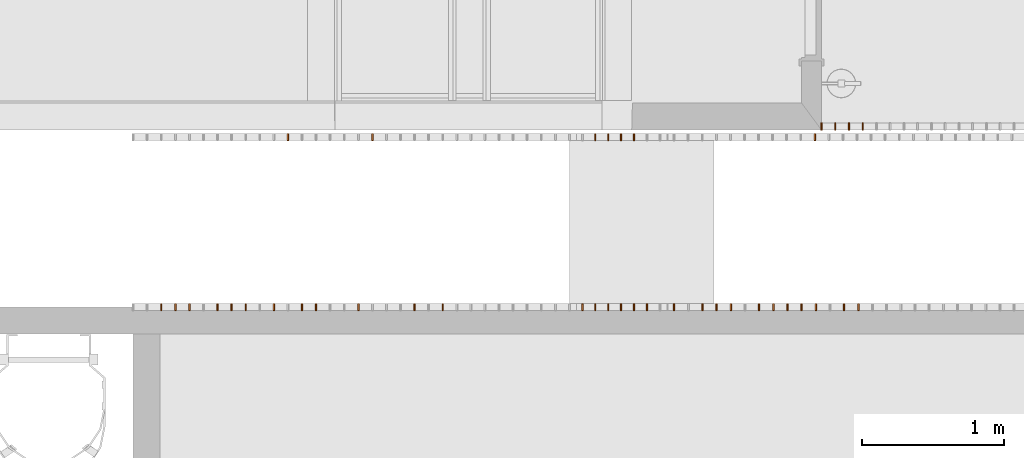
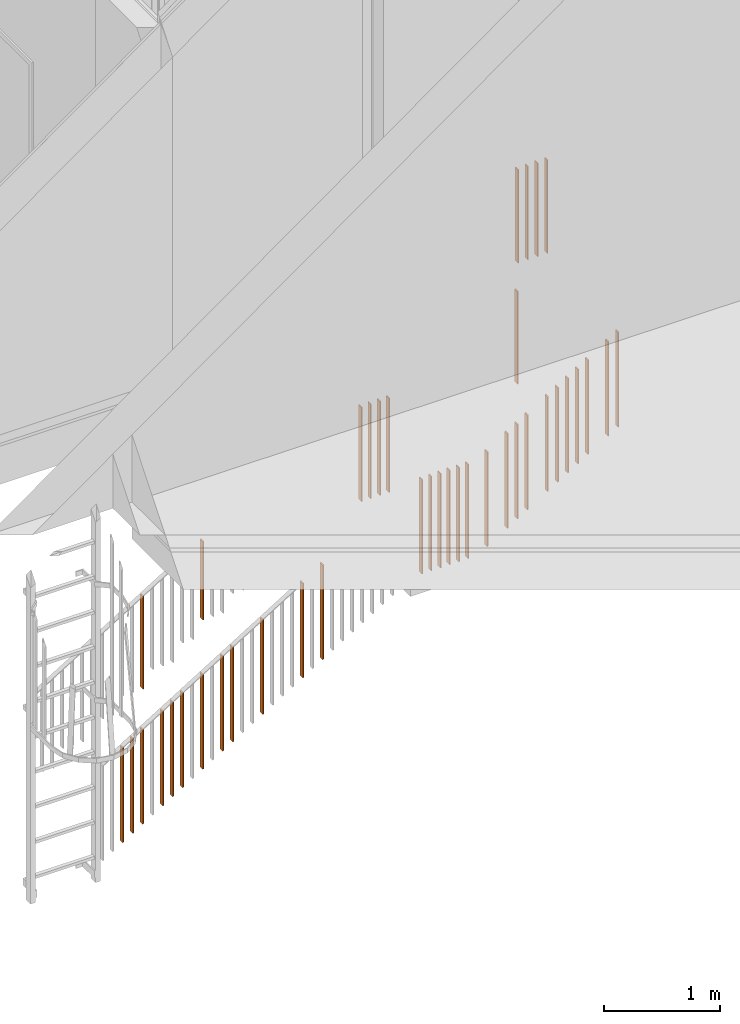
# One storey, part 82 of 100: 40 proxies, 3 elements without a shape of their own.
"""IFC2X3 building model written with IfcOpenShell, lengths in millimetres."""

from ifc_helpers import new_model, entity, si_unit, converted_unit, derived_unit, money_unit, direction, frame, origin_with_axes, place, context, subcontext, project, spatial, faceted_brep, source, transform, mapped, material, type_object, element, aggregate, save


model = new_model("IFC2X3")

# Units and contexts
model_context = context("Model", 3, precision=0.01, world=origin_with_axes(), true_north=direction((0.0, 1.0)))
body_context = subcontext(model_context, "Body", "Model", "MODEL_VIEW")
ifc_project = project(units=[si_unit("LENGTHUNIT", "METRE", prefix="MILLI"), si_unit("AREAUNIT", "SQUARE_METRE"), si_unit("VOLUMEUNIT", "CUBIC_METRE"), converted_unit("PLANEANGLEUNIT", "DEGREE", entity("IfcPlaneAngleMeasure", 0.0174532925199), si_unit("PLANEANGLEUNIT", "RADIAN"), dimensions=[0, 0, 0, 0, 0, 0, 0]), si_unit("SOLIDANGLEUNIT", "STERADIAN"), money_unit("EUR"), converted_unit("TIMEUNIT", "Year", entity("IfcTimeMeasure", 31556926.0), si_unit("TIMEUNIT", "SECOND"), dimensions=[0, 0, 1, 0, 0, 0, 0]), si_unit("MASSUNIT", "GRAM", prefix="KILO"), si_unit("THERMODYNAMICTEMPERATUREUNIT", "DEGREE_CELSIUS"), si_unit("LUMINOUSINTENSITYUNIT", "LUMEN"), si_unit("ENERGYUNIT", "JOULE", prefix="MEGA"), derived_unit("THERMALCONDUCTANCEUNIT", [(si_unit("POWERUNIT", "WATT"), 1), (si_unit("LENGTHUNIT", "METRE"), -1), (si_unit("THERMODYNAMICTEMPERATUREUNIT", "KELVIN"), -1)]), derived_unit("SPECIFICHEATCAPACITYUNIT", [(si_unit("ENERGYUNIT", "JOULE"), 1), (si_unit("MASSUNIT", "GRAM", prefix="KILO"), -1), (si_unit("THERMODYNAMICTEMPERATUREUNIT", "KELVIN"), -1)]), derived_unit("MASSDENSITYUNIT", [(si_unit("MASSUNIT", "GRAM", prefix="KILO"), 1), (si_unit("VOLUMEUNIT", "CUBIC_METRE"), -1)])], contexts=[model_context])

# Site, building, storey
site_placement = place(None, origin_with_axes())
site = spatial("IfcSite", under=ifc_project, at=site_placement, Name="Politse- ja Piirivalveameti ning Päästeameti ühishoone", CompositionType="ELEMENT")
building_placement = place(site_placement, origin_with_axes())
building = spatial("IfcBuilding", under=site, at=building_placement, Name="Politse- ja Piirivalveameti ning Päästeameti ühishoone", CompositionType="ELEMENT")
storey_placement = place(building_placement, frame((0.0, 0.0, 3800.0), z_axis=(0.0, 0.0, 1.0), x_axis=(1.0, 0.0, 0.0)))
storey = spatial("IfcBuildingStorey", under=building, at=storey_placement, Name="Teine korrus", CompositionType="ELEMENT", Elevation=3800.0)

# Railing, proxies
railing_type = type_object("IfcRailingType", Name="Railing Type", PredefinedType="NOTDEFINED")
railing_1_placement = place(storey_placement, frame((26625.7771626, 12810.0198723, -2.69359405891e-05), z_axis=(0.0, 0.0, 1.0), x_axis=(0.0, 1.0, 0.0)))
railing_1 = element("IfcRailing", 1, at=railing_1_placement, inside=storey, type_object=railing_type, Name="PIIRE 2", PredefinedType="NOTDEFINED")
ifc_material = material(Name="Teras - Konstruktsioon")
building_element_proxy_type = type_object("IfcBuildingElementProxyType", Name="IfcBuildingElementProxy", PredefinedType="NOTDEFINED")
shared_shape_1 = source(origin_with_axes(), body_context, "Body", "Brep", [
    faceted_brep([(25.0, 5.0, 0.0), (-25.0, 5.0, 0.0), (-25.0, 5.0, 980.0), (25.0, 5.0, 980.0), (25.0, -5.0, 0.0), (-25.0, -5.0, 0.0), (-25.0, -5.0, 980.0), (25.0, -5.0, 980.0)], [[[0, 1, 2, 3]], [[0, 4, 5, 1]], [[1, 5, 6, 2]], [[3, 2, 6, 7]], [[4, 0, 3, 7]], [[5, 4, 7, 6]]]),
])
proxy_1_placement = place(railing_1_placement, frame((25.0, 3365.75114423, 0.0), z_axis=(0.0, 0.0, 1.0), x_axis=(0.0, -1.0, 0.0)))
proxy_1 = element("IfcBuildingElementProxy", 2, at=proxy_1_placement, type_object=building_element_proxy_type, material=ifc_material, Name="PIIRDE POST - 001", context=body_context, shape_type="MappedRepresentation", body=[
    mapped(shared_shape_1, transform((0.0, 0.0, 0.0), x_axis=(0.0, 1.0, 0.0), y_axis=(-1.0, 0.0, 0.0), z_axis=(0.0, 0.0, 1.0))),
])
shared_shape_2 = source(origin_with_axes(), body_context, "Body", "Brep", [
    faceted_brep([(25.0, 5.0, 0.0), (-25.0, 5.0, 0.0), (-25.0, 5.0, 980.000012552), (25.0, 5.0, 980.000012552), (25.0, -5.0, 0.0), (-25.0, -5.0, 0.0), (-25.0, -5.0, 980.000012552), (25.0, -5.0, 980.000012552)], [[[0, 1, 2, 3]], [[0, 4, 5, 1]], [[1, 5, 6, 2]], [[3, 2, 6, 7]], [[4, 0, 3, 7]], [[5, 4, 7, 6]]]),
])
proxy_2_placement = place(railing_1_placement, frame((25.0, 3074.75114423, -1.25516996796e-05), z_axis=(0.0, 0.0, 1.0), x_axis=(0.0, -1.0, 0.0)))
proxy_2 = element("IfcBuildingElementProxy", 3, at=proxy_2_placement, type_object=building_element_proxy_type, material=ifc_material, Name="BALUSTER - 001", context=body_context, shape_type="MappedRepresentation", body=[
    mapped(shared_shape_2, transform((0.0, 0.0, 0.0), x_axis=(0.0, 1.0, 0.0), y_axis=(-1.0, 0.0, 0.0), z_axis=(0.0, 0.0, 1.0))),
])
proxy_3_placement = place(railing_1_placement, frame((25.0, 3171.75114423, -1.25516996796e-05), z_axis=(0.0, 0.0, 1.0), x_axis=(0.0, -1.0, 0.0)))
proxy_3 = element("IfcBuildingElementProxy", 4, at=proxy_3_placement, type_object=building_element_proxy_type, material=ifc_material, Name="BALUSTER - 001", context=body_context, shape_type="MappedRepresentation", body=[
    mapped(shared_shape_2, transform((0.0, 0.0, 0.0), x_axis=(0.0, 1.0, 0.0), y_axis=(-1.0, 0.0, 0.0), z_axis=(0.0, 0.0, 1.0))),
])
proxy_4_placement = place(railing_1_placement, frame((25.0, 3268.75114423, -1.25516996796e-05), z_axis=(0.0, 0.0, 1.0), x_axis=(0.0, -1.0, 0.0)))
proxy_4 = element("IfcBuildingElementProxy", 5, at=proxy_4_placement, type_object=building_element_proxy_type, material=ifc_material, Name="BALUSTER - 001", context=body_context, shape_type="MappedRepresentation", body=[
    mapped(shared_shape_2, transform((0.0, 0.0, 0.0), x_axis=(0.0, 1.0, 0.0), y_axis=(-1.0, 0.0, 0.0), z_axis=(0.0, 0.0, 1.0))),
])
aggregate(railing_1, [proxy_1, proxy_2, proxy_3, proxy_4])

railing_2_placement = place(storey_placement, frame((18400.0260184, 11585.0198611, -3800.0), z_axis=(0.0, 0.0, 1.0), x_axis=(1.0, 0.0, 0.0)))
railing_2 = element("IfcRailing", 6, at=railing_2_placement, inside=storey, type_object=railing_type, Name="TREPIPIIRE 6", PredefinedType="NOTDEFINED")
shared_shape_3 = source(origin_with_axes(), body_context, "Body", "Brep", [
    faceted_brep([(25.0, 5.0, 3.08441558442), (-25.0, 5.0, 3.08441558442), (-25.0, 5.0, 993.084428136), (25.0, 5.0, 993.084428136), (25.0, -5.0, -3.08441558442), (-25.0, -5.0, -3.08441558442), (-25.0, -5.0, 986.915596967), (25.0, -5.0, 986.915596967)], [[[0, 1, 2, 3]], [[0, 4, 5, 1]], [[1, 5, 6, 2]], [[3, 2, 6, 7]], [[4, 0, 3, 7]], [[5, 4, 7, 6]]]),
])
proxy_5_placement = place(railing_2_placement, frame((198.709677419, -25.0, 122.58063261), z_axis=(0.0, 0.0, 1.0), x_axis=(1.0, 0.0, 0.0)))
proxy_5 = element("IfcBuildingElementProxy", 7, at=proxy_5_placement, type_object=building_element_proxy_type, material=ifc_material, Name="BALUSTER - 001", context=body_context, shape_type="MappedRepresentation", body=[
    mapped(shared_shape_3, transform((0.0, 0.0, 0.0), x_axis=(0.0, -1.0, 0.0), y_axis=(1.0, 0.0, 0.0), z_axis=(0.0, 0.0, 1.0))),
])
proxy_6_placement = place(railing_2_placement, frame((695.483870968, -25.0, 429.032245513), z_axis=(0.0, 0.0, 1.0), x_axis=(1.0, 0.0, 0.0)))
proxy_6 = element("IfcBuildingElementProxy", 8, at=proxy_6_placement, type_object=building_element_proxy_type, material=ifc_material, Name="BALUSTER - 001", context=body_context, shape_type="MappedRepresentation", body=[
    mapped(shared_shape_3, transform((0.0, 0.0, 0.0), x_axis=(0.0, -1.0, 0.0), y_axis=(1.0, 0.0, 0.0), z_axis=(0.0, 0.0, 1.0))),
])
shared_shape_4 = source(origin_with_axes(), body_context, "Body", "Brep", [
    faceted_brep([(25.0, 5.0, 3.08441558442), (-25.0, 5.0, 3.08441558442), (-25.0, 5.0, 993.084428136), (25.0, 5.0, 993.084428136), (25.0, -5.0, -3.08441558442), (-25.0, -5.0, -3.08441558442), (-25.0, -5.0, 986.915596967), (25.0, -5.0, 986.915596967)], [[[0, 1, 2, 3]], [[0, 4, 5, 1]], [[1, 5, 6, 2]], [[3, 2, 6, 7]], [[4, 0, 3, 7]], [[5, 4, 7, 6]]]),
])
proxy_7_placement = place(railing_2_placement, frame((298.064516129, -25.0, 183.87095519), z_axis=(0.0, 0.0, 1.0), x_axis=(1.0, 0.0, 0.0)))
proxy_7 = element("IfcBuildingElementProxy", 9, at=proxy_7_placement, type_object=building_element_proxy_type, material=ifc_material, Name="BALUSTER - 001", context=body_context, shape_type="MappedRepresentation", body=[
    mapped(shared_shape_4, transform((0.0, 0.0, 0.0), x_axis=(0.0, -1.0, 0.0), y_axis=(1.0, 0.0, 0.0), z_axis=(0.0, 0.0, 1.0))),
])
proxy_8_placement = place(railing_2_placement, frame((596.129032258, -25.0, 367.741922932), z_axis=(0.0, 0.0, 1.0), x_axis=(1.0, 0.0, 0.0)))
proxy_8 = element("IfcBuildingElementProxy", 10, at=proxy_8_placement, type_object=building_element_proxy_type, material=ifc_material, Name="BALUSTER - 001", context=body_context, shape_type="MappedRepresentation", body=[
    mapped(shared_shape_4, transform((0.0, 0.0, 0.0), x_axis=(0.0, -1.0, 0.0), y_axis=(1.0, 0.0, 0.0), z_axis=(0.0, 0.0, 1.0))),
])
proxy_9_placement = place(railing_2_placement, frame((794.838709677, -25.0, 490.322568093), z_axis=(0.0, 0.0, 1.0), x_axis=(1.0, 0.0, 0.0)))
proxy_9 = element("IfcBuildingElementProxy", 11, at=proxy_9_placement, type_object=building_element_proxy_type, material=ifc_material, Name="BALUSTER - 001", context=body_context, shape_type="MappedRepresentation", body=[
    mapped(shared_shape_4, transform((0.0, 0.0, 0.0), x_axis=(0.0, -1.0, 0.0), y_axis=(1.0, 0.0, 0.0), z_axis=(0.0, 0.0, 1.0))),
])
shared_shape_5 = source(origin_with_axes(), body_context, "Body", "Brep", [
    faceted_brep([(25.0, 5.0, 3.08441558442), (-25.0, 5.0, 3.08441558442), (-25.0, 5.0, 993.084428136), (25.0, 5.0, 993.084428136), (25.0, -5.0, -3.08441558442), (-25.0, -5.0, -3.08441558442), (-25.0, -5.0, 986.915596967), (25.0, -5.0, 986.915596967)], [[[0, 1, 2, 3]], [[0, 4, 5, 1]], [[1, 5, 6, 2]], [[3, 2, 6, 7]], [[4, 0, 3, 7]], [[5, 4, 7, 6]]]),
])
proxy_10_placement = place(railing_2_placement, frame((397.419354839, -25.0, 245.161277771), z_axis=(0.0, 0.0, 1.0), x_axis=(1.0, 0.0, 0.0)))
proxy_10 = element("IfcBuildingElementProxy", 12, at=proxy_10_placement, type_object=building_element_proxy_type, material=ifc_material, Name="BALUSTER - 001", context=body_context, shape_type="MappedRepresentation", body=[
    mapped(shared_shape_5, transform((0.0, 0.0, 0.0), x_axis=(0.0, -1.0, 0.0), y_axis=(1.0, 0.0, 0.0), z_axis=(0.0, 0.0, 1.0))),
])
proxy_11_placement = place(railing_2_placement, frame((1192.25806452, -25.0, 735.483858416), z_axis=(0.0, 0.0, 1.0), x_axis=(1.0, 0.0, 0.0)))
proxy_11 = element("IfcBuildingElementProxy", 13, at=proxy_11_placement, type_object=building_element_proxy_type, material=ifc_material, Name="BALUSTER - 001", context=body_context, shape_type="MappedRepresentation", body=[
    mapped(shared_shape_5, transform((0.0, 0.0, 0.0), x_axis=(0.0, -1.0, 0.0), y_axis=(1.0, 0.0, 0.0), z_axis=(0.0, 0.0, 1.0))),
])
proxy_12_placement = place(railing_2_placement, frame((1291.61290323, -25.0, 796.774180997), z_axis=(0.0, 0.0, 1.0), x_axis=(1.0, 0.0, 0.0)))
proxy_12 = element("IfcBuildingElementProxy", 14, at=proxy_12_placement, type_object=building_element_proxy_type, material=ifc_material, Name="BALUSTER - 001", context=body_context, shape_type="MappedRepresentation", body=[
    mapped(shared_shape_5, transform((0.0, 0.0, 0.0), x_axis=(0.0, -1.0, 0.0), y_axis=(1.0, 0.0, 0.0), z_axis=(0.0, 0.0, 1.0))),
])
shared_shape_6 = source(origin_with_axes(), body_context, "Body", "Brep", [
    faceted_brep([(25.0, 5.0, 3.08441558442), (-25.0, 5.0, 3.08441558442), (-25.0, 5.0, 993.084428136), (25.0, 5.0, 993.084428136), (25.0, -5.0, -3.08441558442), (-25.0, -5.0, -3.08441558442), (-25.0, -5.0, 986.915596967), (25.0, -5.0, 986.915596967)], [[[0, 1, 2, 3]], [[0, 4, 5, 1]], [[1, 5, 6, 2]], [[3, 2, 6, 7]], [[4, 0, 3, 7]], [[5, 4, 7, 6]]]),
])
proxy_13_placement = place(railing_2_placement, frame((993.548387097, -25.0, 612.903213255), z_axis=(0.0, 0.0, 1.0), x_axis=(1.0, 0.0, 0.0)))
proxy_13 = element("IfcBuildingElementProxy", 15, at=proxy_13_placement, type_object=building_element_proxy_type, material=ifc_material, Name="BALUSTER - 001", context=body_context, shape_type="MappedRepresentation", body=[
    mapped(shared_shape_6, transform((0.0, 0.0, 0.0), x_axis=(0.0, -1.0, 0.0), y_axis=(1.0, 0.0, 0.0), z_axis=(0.0, 0.0, 1.0))),
])
proxy_14_placement = place(railing_2_placement, frame((1589.67741935, -25.0, 980.645148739), z_axis=(0.0, 0.0, 1.0), x_axis=(1.0, 0.0, 0.0)))
proxy_14 = element("IfcBuildingElementProxy", 16, at=proxy_14_placement, type_object=building_element_proxy_type, material=ifc_material, Name="BALUSTER - 001", context=body_context, shape_type="MappedRepresentation", body=[
    mapped(shared_shape_6, transform((0.0, 0.0, 0.0), x_axis=(0.0, -1.0, 0.0), y_axis=(1.0, 0.0, 0.0), z_axis=(0.0, 0.0, 1.0))),
])
proxy_15_placement = place(railing_2_placement, frame((4020.0, -25.0, 2085.06492251), z_axis=(0.0, 0.0, 1.0), x_axis=(1.0, 0.0, 0.0)))
proxy_15 = element("IfcBuildingElementProxy", 17, at=proxy_15_placement, type_object=building_element_proxy_type, material=ifc_material, Name="BALUSTER - 001", context=body_context, shape_type="MappedRepresentation", body=[
    mapped(shared_shape_6, transform((0.0, 0.0, 0.0), x_axis=(0.0, -1.0, 0.0), y_axis=(1.0, 0.0, 0.0), z_axis=(0.0, 0.0, 1.0))),
])
proxy_16_placement = place(railing_2_placement, frame((4120.0, -25.0, 2146.7532342), z_axis=(0.0, 0.0, 1.0), x_axis=(1.0, 0.0, 0.0)))
proxy_16 = element("IfcBuildingElementProxy", 18, at=proxy_16_placement, type_object=building_element_proxy_type, material=ifc_material, Name="BALUSTER - 001", context=body_context, shape_type="MappedRepresentation", body=[
    mapped(shared_shape_6, transform((0.0, 0.0, 0.0), x_axis=(0.0, -1.0, 0.0), y_axis=(1.0, 0.0, 0.0), z_axis=(0.0, 0.0, 1.0))),
])
proxy_17_placement = place(railing_2_placement, frame((4220.0, -25.0, 2208.44154589), z_axis=(0.0, 0.0, 1.0), x_axis=(1.0, 0.0, 0.0)))
proxy_17 = element("IfcBuildingElementProxy", 19, at=proxy_17_placement, type_object=building_element_proxy_type, material=ifc_material, Name="BALUSTER - 001", context=body_context, shape_type="MappedRepresentation", body=[
    mapped(shared_shape_6, transform((0.0, 0.0, 0.0), x_axis=(0.0, -1.0, 0.0), y_axis=(1.0, 0.0, 0.0), z_axis=(0.0, 0.0, 1.0))),
])
shared_shape_7 = source(origin_with_axes(), body_context, "Body", "Brep", [
    faceted_brep([(25.0, 5.0, 3.08441558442), (-25.0, 5.0, 3.08441558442), (-25.0, 5.0, 993.084428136), (25.0, 5.0, 993.084428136), (25.0, -5.0, -3.08441558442), (-25.0, -5.0, -3.08441558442), (-25.0, -5.0, 986.915596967), (25.0, -5.0, 986.915596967)], [[[0, 1, 2, 3]], [[0, 4, 5, 1]], [[1, 5, 6, 2]], [[3, 2, 6, 7]], [[4, 0, 3, 7]], [[5, 4, 7, 6]]]),
])
proxy_18_placement = place(railing_2_placement, frame((1987.09677419, -25.0, 1225.80643906), z_axis=(0.0, 0.0, 1.0), x_axis=(1.0, 0.0, 0.0)))
proxy_18 = element("IfcBuildingElementProxy", 20, at=proxy_18_placement, type_object=building_element_proxy_type, material=ifc_material, Name="BALUSTER - 001", context=body_context, shape_type="MappedRepresentation", body=[
    mapped(shared_shape_7, transform((0.0, 0.0, 0.0), x_axis=(0.0, -1.0, 0.0), y_axis=(1.0, 0.0, 0.0), z_axis=(0.0, 0.0, 1.0))),
])
proxy_19_placement = place(railing_2_placement, frame((4620.0, -25.0, 2455.19479264), z_axis=(0.0, 0.0, 1.0), x_axis=(1.0, 0.0, 0.0)))
proxy_19 = element("IfcBuildingElementProxy", 21, at=proxy_19_placement, type_object=building_element_proxy_type, material=ifc_material, Name="BALUSTER - 001", context=body_context, shape_type="MappedRepresentation", body=[
    mapped(shared_shape_7, transform((0.0, 0.0, 0.0), x_axis=(0.0, -1.0, 0.0), y_axis=(1.0, 0.0, 0.0), z_axis=(0.0, 0.0, 1.0))),
])
proxy_20_placement = place(railing_2_placement, frame((4720.0, -25.0, 2516.88310433), z_axis=(0.0, 0.0, 1.0), x_axis=(1.0, 0.0, 0.0)))
proxy_20 = element("IfcBuildingElementProxy", 22, at=proxy_20_placement, type_object=building_element_proxy_type, material=ifc_material, Name="BALUSTER - 001", context=body_context, shape_type="MappedRepresentation", body=[
    mapped(shared_shape_7, transform((0.0, 0.0, 0.0), x_axis=(0.0, -1.0, 0.0), y_axis=(1.0, 0.0, 0.0), z_axis=(0.0, 0.0, 1.0))),
])
shared_shape_8 = source(origin_with_axes(), body_context, "Body", "Brep", [
    faceted_brep([(25.0, 5.0, 3.08441558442), (-25.0, 5.0, 3.08441558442), (-25.0, 5.0, 993.084428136), (25.0, 5.0, 993.084428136), (25.0, -5.0, -3.08441558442), (-25.0, -5.0, -3.08441558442), (-25.0, -5.0, 986.915596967), (25.0, -5.0, 986.915596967)], [[[0, 1, 2, 3]], [[0, 4, 5, 1]], [[1, 5, 6, 2]], [[3, 2, 6, 7]], [[4, 0, 3, 7]], [[5, 4, 7, 6]]]),
])
proxy_21_placement = place(railing_2_placement, frame((2185.80645161, -25.0, 1348.38708422), z_axis=(0.0, 0.0, 1.0), x_axis=(1.0, 0.0, 0.0)))
proxy_21 = element("IfcBuildingElementProxy", 23, at=proxy_21_placement, type_object=building_element_proxy_type, material=ifc_material, Name="BALUSTER - 001", context=body_context, shape_type="MappedRepresentation", body=[
    mapped(shared_shape_8, transform((0.0, 0.0, 0.0), x_axis=(0.0, -1.0, 0.0), y_axis=(1.0, 0.0, 0.0), z_axis=(0.0, 0.0, 1.0))),
])
proxy_22_placement = place(railing_2_placement, frame((3820.0, -25.0, 1961.68829914), z_axis=(0.0, 0.0, 1.0), x_axis=(1.0, 0.0, 0.0)))
proxy_22 = element("IfcBuildingElementProxy", 24, at=proxy_22_placement, type_object=building_element_proxy_type, material=ifc_material, Name="BALUSTER - 001", context=body_context, shape_type="MappedRepresentation", body=[
    mapped(shared_shape_8, transform((0.0, 0.0, 0.0), x_axis=(0.0, -1.0, 0.0), y_axis=(1.0, 0.0, 0.0), z_axis=(0.0, 0.0, 1.0))),
])
shared_shape_9 = source(origin_with_axes(), body_context, "Body", "Brep", [
    faceted_brep([(25.0, 5.0, 0.0), (-25.0, 5.0, 0.0), (-25.0, 5.0, 990.000012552), (25.0, 5.0, 990.000012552), (25.0, -5.0, 0.0), (-25.0, -5.0, 0.0), (-25.0, -5.0, 990.000012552), (25.0, -5.0, 990.000012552)], [[[0, 1, 2, 3]], [[0, 4, 5, 1]], [[1, 5, 6, 2]], [[3, 2, 6, 7]], [[4, 0, 3, 7]], [[5, 4, 7, 6]]]),
])
proxy_23_placement = place(railing_2_placement, frame((3171.42857143, -25.0, 1899.99998745), z_axis=(0.0, 0.0, 1.0), x_axis=(1.0, 0.0, 0.0)))
proxy_23 = element("IfcBuildingElementProxy", 25, at=proxy_23_placement, type_object=building_element_proxy_type, material=ifc_material, Name="BALUSTER - 001", context=body_context, shape_type="MappedRepresentation", body=[
    mapped(shared_shape_9, transform((0.0, 0.0, 0.0), x_axis=(0.0, -1.0, 0.0), y_axis=(1.0, 0.0, 0.0), z_axis=(0.0, 0.0, 1.0))),
])
proxy_24_placement = place(railing_2_placement, frame((3262.85714286, -25.0, 1899.99998745), z_axis=(0.0, 0.0, 1.0), x_axis=(1.0, 0.0, 0.0)))
proxy_24 = element("IfcBuildingElementProxy", 26, at=proxy_24_placement, type_object=building_element_proxy_type, material=ifc_material, Name="BALUSTER - 001", context=body_context, shape_type="MappedRepresentation", body=[
    mapped(shared_shape_9, transform((0.0, 0.0, 0.0), x_axis=(0.0, -1.0, 0.0), y_axis=(1.0, 0.0, 0.0), z_axis=(0.0, 0.0, 1.0))),
])
proxy_25_placement = place(railing_2_placement, frame((3354.28571429, -25.0, 1899.99998745), z_axis=(0.0, 0.0, 1.0), x_axis=(1.0, 0.0, 0.0)))
proxy_25 = element("IfcBuildingElementProxy", 27, at=proxy_25_placement, type_object=building_element_proxy_type, material=ifc_material, Name="BALUSTER - 001", context=body_context, shape_type="MappedRepresentation", body=[
    mapped(shared_shape_9, transform((0.0, 0.0, 0.0), x_axis=(0.0, -1.0, 0.0), y_axis=(1.0, 0.0, 0.0), z_axis=(0.0, 0.0, 1.0))),
])
proxy_26_placement = place(railing_2_placement, frame((3445.71428571, -25.0, 1899.99998745), z_axis=(0.0, 0.0, 1.0), x_axis=(1.0, 0.0, 0.0)))
proxy_26 = element("IfcBuildingElementProxy", 28, at=proxy_26_placement, type_object=building_element_proxy_type, material=ifc_material, Name="BALUSTER - 001", context=body_context, shape_type="MappedRepresentation", body=[
    mapped(shared_shape_9, transform((0.0, 0.0, 0.0), x_axis=(0.0, -1.0, 0.0), y_axis=(1.0, 0.0, 0.0), z_axis=(0.0, 0.0, 1.0))),
])
proxy_27_placement = place(railing_2_placement, frame((3537.14285714, -25.0, 1899.99998745), z_axis=(0.0, 0.0, 1.0), x_axis=(1.0, 0.0, 0.0)))
proxy_27 = element("IfcBuildingElementProxy", 29, at=proxy_27_placement, type_object=building_element_proxy_type, material=ifc_material, Name="BALUSTER - 001", context=body_context, shape_type="MappedRepresentation", body=[
    mapped(shared_shape_9, transform((0.0, 0.0, 0.0), x_axis=(0.0, -1.0, 0.0), y_axis=(1.0, 0.0, 0.0), z_axis=(0.0, 0.0, 1.0))),
])
proxy_28_placement = place(railing_2_placement, frame((3628.57142857, -25.0, 1899.99998745), z_axis=(0.0, 0.0, 1.0), x_axis=(1.0, 0.0, 0.0)))
proxy_28 = element("IfcBuildingElementProxy", 30, at=proxy_28_placement, type_object=building_element_proxy_type, material=ifc_material, Name="BALUSTER - 001", context=body_context, shape_type="MappedRepresentation", body=[
    mapped(shared_shape_9, transform((0.0, 0.0, 0.0), x_axis=(0.0, -1.0, 0.0), y_axis=(1.0, 0.0, 0.0), z_axis=(0.0, 0.0, 1.0))),
])
shared_shape_10 = source(origin_with_axes(), body_context, "Body", "Brep", [
    faceted_brep([(25.0, 5.0, 3.08441558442), (-25.0, 5.0, 3.08441558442), (-25.0, 5.0, 993.084428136), (25.0, 5.0, 993.084428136), (25.0, -5.0, -3.08441558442), (-25.0, -5.0, -3.08441558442), (-25.0, -5.0, 986.915596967), (25.0, -5.0, 986.915596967)], [[[0, 1, 2, 3]], [[0, 4, 5, 1]], [[1, 5, 6, 2]], [[3, 2, 6, 7]], [[4, 0, 3, 7]], [[5, 4, 7, 6]]]),
])
proxy_29_placement = place(railing_2_placement, frame((4420.0, -25.0, 2331.81816927), z_axis=(0.0, 0.0, 1.0), x_axis=(1.0, 0.0, 0.0)))
proxy_29 = element("IfcBuildingElementProxy", 31, at=proxy_29_placement, type_object=building_element_proxy_type, material=ifc_material, Name="BALUSTER - 001", context=body_context, shape_type="MappedRepresentation", body=[
    mapped(shared_shape_10, transform((0.0, 0.0, 0.0), x_axis=(0.0, -1.0, 0.0), y_axis=(1.0, 0.0, 0.0), z_axis=(0.0, 0.0, 1.0))),
])
proxy_30_placement = place(railing_2_placement, frame((4520.0, -25.0, 2393.50648095), z_axis=(0.0, 0.0, 1.0), x_axis=(1.0, 0.0, 0.0)))
proxy_30 = element("IfcBuildingElementProxy", 32, at=proxy_30_placement, type_object=building_element_proxy_type, material=ifc_material, Name="BALUSTER - 001", context=body_context, shape_type="MappedRepresentation", body=[
    mapped(shared_shape_10, transform((0.0, 0.0, 0.0), x_axis=(0.0, -1.0, 0.0), y_axis=(1.0, 0.0, 0.0), z_axis=(0.0, 0.0, 1.0))),
])
shared_shape_11 = source(origin_with_axes(), body_context, "Body", "Brep", [
    faceted_brep([(25.0, 5.0, 3.08441558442), (-25.0, 5.0, 3.08441558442), (-25.0, 5.0, 993.084428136), (25.0, 5.0, 993.084428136), (25.0, -5.0, -3.08441558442), (-25.0, -5.0, -3.08441558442), (-25.0, -5.0, 986.915596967), (25.0, -5.0, 986.915596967)], [[[0, 1, 2, 3]], [[0, 4, 5, 1]], [[1, 5, 6, 2]], [[3, 2, 6, 7]], [[4, 0, 3, 7]], [[5, 4, 7, 6]]]),
])
proxy_31_placement = place(railing_2_placement, frame((4820.0, -25.0, 2578.57141602), z_axis=(0.0, 0.0, 1.0), x_axis=(1.0, 0.0, 0.0)))
proxy_31 = element("IfcBuildingElementProxy", 33, at=proxy_31_placement, type_object=building_element_proxy_type, material=ifc_material, Name="BALUSTER - 001", context=body_context, shape_type="MappedRepresentation", body=[
    mapped(shared_shape_11, transform((0.0, 0.0, 0.0), x_axis=(0.0, -1.0, 0.0), y_axis=(1.0, 0.0, 0.0), z_axis=(0.0, 0.0, 1.0))),
])
proxy_32_placement = place(railing_2_placement, frame((5020.0, -25.0, 2701.9480394), z_axis=(0.0, 0.0, 1.0), x_axis=(1.0, 0.0, 0.0)))
proxy_32 = element("IfcBuildingElementProxy", 34, at=proxy_32_placement, type_object=building_element_proxy_type, material=ifc_material, Name="BALUSTER - 001", context=body_context, shape_type="MappedRepresentation", body=[
    mapped(shared_shape_11, transform((0.0, 0.0, 0.0), x_axis=(0.0, -1.0, 0.0), y_axis=(1.0, 0.0, 0.0), z_axis=(0.0, 0.0, 1.0))),
])
proxy_33_placement = place(railing_2_placement, frame((5120.0, -25.0, 2763.63635108), z_axis=(0.0, 0.0, 1.0), x_axis=(1.0, 0.0, 0.0)))
proxy_33 = element("IfcBuildingElementProxy", 35, at=proxy_33_placement, type_object=building_element_proxy_type, material=ifc_material, Name="BALUSTER - 001", context=body_context, shape_type="MappedRepresentation", body=[
    mapped(shared_shape_11, transform((0.0, 0.0, 0.0), x_axis=(0.0, -1.0, 0.0), y_axis=(1.0, 0.0, 0.0), z_axis=(0.0, 0.0, 1.0))),
])
aggregate(railing_2, [proxy_5, proxy_7, proxy_10, proxy_8, proxy_6, proxy_9, proxy_13, proxy_11, proxy_12, proxy_14, proxy_18, proxy_21, proxy_23, proxy_24, proxy_25, proxy_26, proxy_27, proxy_28, proxy_22, proxy_15, proxy_16, proxy_17, proxy_29, proxy_30, proxy_19, proxy_20, proxy_31, proxy_32, proxy_33])

railing_3_placement = place(storey_placement, frame((18400.0260184, 12785.0198611, -3800.0), z_axis=(0.0, 0.0, 1.0), x_axis=(1.0, 0.0, 0.0)))
railing_3 = element("IfcRailing", 36, at=railing_3_placement, inside=storey, type_object=railing_type, Name="TREPIPIIRE 7", PredefinedType="NOTDEFINED")
shared_shape_12 = source(origin_with_axes(), body_context, "Body", "Brep", [
    faceted_brep([(25.0, 5.0, 0.0), (-25.0, 5.0, 0.0), (-25.0, 5.0, 976.368885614), (25.0, 5.0, 976.368885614), (25.0, -5.0, 0.0), (-25.0, -5.0, 0.0), (-25.0, -5.0, 970.200054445), (25.0, -5.0, 970.200054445)], [[[0, 1, 2, 3]], [[0, 4, 5, 1]], [[1, 5, 6, 2]], [[3, 2, 6, 7]], [[4, 0, 3, 7]], [[5, 4, 7, 6]]]),
])
proxy_34_placement = place(railing_3_placement, frame((1092.90322581, -25.0, 690.909078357), z_axis=(0.0, 0.0, 1.0), x_axis=(1.0, 0.0, 0.0)))
proxy_34 = element("IfcBuildingElementProxy", 37, at=proxy_34_placement, type_object=building_element_proxy_type, material=ifc_material, Name="BALUSTER - 001", context=body_context, shape_type="MappedRepresentation", body=[
    mapped(shared_shape_12, transform((0.0, 0.0, 0.0), x_axis=(0.0, -1.0, 0.0), y_axis=(1.0, 0.0, 0.0), z_axis=(0.0, 0.0, 1.0))),
])
proxy_35_placement = place(railing_3_placement, frame((4812.90322581, -25.0, 2590.90907836), z_axis=(0.0, 0.0, 1.0), x_axis=(1.0, 0.0, 0.0)))
proxy_35 = element("IfcBuildingElementProxy", 38, at=proxy_35_placement, type_object=building_element_proxy_type, material=ifc_material, Name="BALUSTER - 001", context=body_context, shape_type="MappedRepresentation", body=[
    mapped(shared_shape_12, transform((0.0, 0.0, 0.0), x_axis=(0.0, -1.0, 0.0), y_axis=(1.0, 0.0, 0.0), z_axis=(0.0, 0.0, 1.0))),
])
shared_shape_13 = source(origin_with_axes(), body_context, "Body", "Brep", [
    faceted_brep([(25.0, 5.0, 0.0), (-25.0, 5.0, 0.0), (-25.0, 5.0, 825.929002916), (25.0, 5.0, 825.929002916), (25.0, -5.0, 0.0), (-25.0, -5.0, 0.0), (-25.0, -5.0, 819.760171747), (25.0, -5.0, 819.760171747)], [[[0, 1, 2, 3]], [[0, 4, 5, 1]], [[1, 5, 6, 2]], [[3, 2, 6, 7]], [[4, 0, 3, 7]], [[5, 4, 7, 6]]]),
])
proxy_36_placement = place(railing_3_placement, frame((1689.03225806, -25.0, 1209.09089654), z_axis=(0.0, 0.0, 1.0), x_axis=(1.0, 0.0, 0.0)))
proxy_36 = element("IfcBuildingElementProxy", 39, at=proxy_36_placement, type_object=building_element_proxy_type, material=ifc_material, Name="BALUSTER - 001", context=body_context, shape_type="MappedRepresentation", body=[
    mapped(shared_shape_13, transform((0.0, 0.0, 0.0), x_axis=(0.0, -1.0, 0.0), y_axis=(1.0, 0.0, 0.0), z_axis=(0.0, 0.0, 1.0))),
])
shared_shape_14 = source(origin_with_axes(), body_context, "Body", "Brep", [
    faceted_brep([(25.0, 5.0, 0.0), (-25.0, 5.0, 0.0), (-25.0, 5.0, 990.000012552), (25.0, 5.0, 990.000012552), (25.0, -5.0, 0.0), (-25.0, -5.0, 0.0), (-25.0, -5.0, 990.000012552), (25.0, -5.0, 990.000012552)], [[[0, 1, 2, 3]], [[0, 4, 5, 1]], [[1, 5, 6, 2]], [[3, 2, 6, 7]], [[4, 0, 3, 7]], [[5, 4, 7, 6]]]),
])
proxy_37_placement = place(railing_3_placement, frame((3262.85714286, -25.0, 1899.99998745), z_axis=(0.0, 0.0, 1.0), x_axis=(1.0, 0.0, 0.0)))
proxy_37 = element("IfcBuildingElementProxy", 40, at=proxy_37_placement, type_object=building_element_proxy_type, material=ifc_material, Name="BALUSTER - 001", context=body_context, shape_type="MappedRepresentation", body=[
    mapped(shared_shape_14, transform((0.0, 0.0, 0.0), x_axis=(0.0, -1.0, 0.0), y_axis=(1.0, 0.0, 0.0), z_axis=(0.0, 0.0, 1.0))),
])
proxy_38_placement = place(railing_3_placement, frame((3445.71428571, -25.0, 1899.99998745), z_axis=(0.0, 0.0, 1.0), x_axis=(1.0, 0.0, 0.0)))
proxy_38 = element("IfcBuildingElementProxy", 41, at=proxy_38_placement, type_object=building_element_proxy_type, material=ifc_material, Name="BALUSTER - 001", context=body_context, shape_type="MappedRepresentation", body=[
    mapped(shared_shape_14, transform((0.0, 0.0, 0.0), x_axis=(0.0, -1.0, 0.0), y_axis=(1.0, 0.0, 0.0), z_axis=(0.0, 0.0, 1.0))),
])
shared_shape_15 = source(origin_with_axes(), body_context, "Body", "Brep", [
    faceted_brep([(25.0, 5.0, 0.0), (-25.0, 5.0, 0.0), (-25.0, 5.0, 990.000012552), (25.0, 5.0, 990.000012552), (25.0, -5.0, 0.0), (-25.0, -5.0, 0.0), (-25.0, -5.0, 990.000012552), (25.0, -5.0, 990.000012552)], [[[0, 1, 2, 3]], [[0, 4, 5, 1]], [[1, 5, 6, 2]], [[3, 2, 6, 7]], [[4, 0, 3, 7]], [[5, 4, 7, 6]]]),
])
proxy_39_placement = place(railing_3_placement, frame((3354.28571429, -25.0, 1899.99998745), z_axis=(0.0, 0.0, 1.0), x_axis=(1.0, 0.0, 0.0)))
proxy_39 = element("IfcBuildingElementProxy", 42, at=proxy_39_placement, type_object=building_element_proxy_type, material=ifc_material, Name="BALUSTER - 001", context=body_context, shape_type="MappedRepresentation", body=[
    mapped(shared_shape_15, transform((0.0, 0.0, 0.0), x_axis=(0.0, -1.0, 0.0), y_axis=(1.0, 0.0, 0.0), z_axis=(0.0, 0.0, 1.0))),
])
proxy_40_placement = place(railing_3_placement, frame((3537.14285714, -25.0, 1899.99998745), z_axis=(0.0, 0.0, 1.0), x_axis=(1.0, 0.0, 0.0)))
proxy_40 = element("IfcBuildingElementProxy", 43, at=proxy_40_placement, type_object=building_element_proxy_type, material=ifc_material, Name="BALUSTER - 001", context=body_context, shape_type="MappedRepresentation", body=[
    mapped(shared_shape_15, transform((0.0, 0.0, 0.0), x_axis=(0.0, -1.0, 0.0), y_axis=(1.0, 0.0, 0.0), z_axis=(0.0, 0.0, 1.0))),
])
aggregate(railing_3, [proxy_34, proxy_36, proxy_37, proxy_39, proxy_38, proxy_40, proxy_35])

save(model, "model.ifc")
